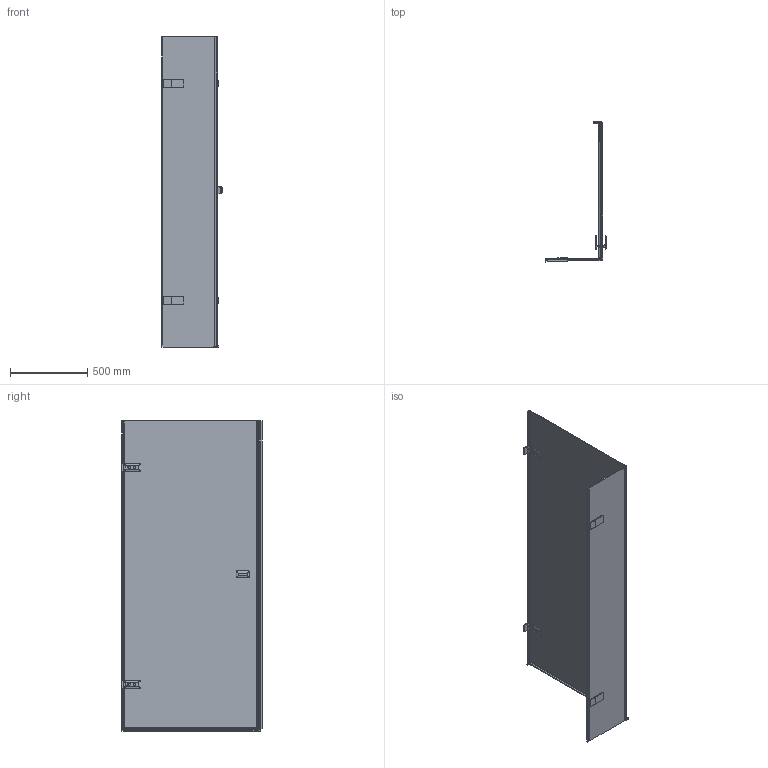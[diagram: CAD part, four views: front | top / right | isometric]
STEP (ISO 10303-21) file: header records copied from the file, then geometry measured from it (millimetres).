
FILE_DESCRIPTION(/* description */ (''),/* implementation_level */ '2;1');
FILE_NAME(/* name */ 'E:\Работа\Сергей\Душевые кабинки\! Работа\TREND SQUARE GK-862GC-2722\TREND SQUARE GK-862GC-2722 правая модель\TREND SQUARE GK-862GC-2722 ПРАВАЯ-3D.stp',/* time_stamp */ '2018-06-06T18:30:47+03:00',/* author */ ('PC'),/* organization */ (''),/* preprocessor_version */ 'ST-DEVELOPER v15.2',/* originating_system */ 'Autodesk Inventor 2014',/* authorisation */ '');
FILE_SCHEMA (('AUTOMOTIVE_DESIGN { 1 0 10303 214 3 1 1 }'));
Length unit declared in the file: millimetre
Products named in the file (1): TREND SQUARE GK-862GC-2722 \X2\041F0420041004120410042F
\X0\-3D
Bounding box: 389.96 x 905.6 x 2001 mm (x, y, z)
Volume: 15678470.5 mm3; surface area: 5467397.4 mm2
Topology: 3 solids, 3 shells, 880 faces, 2311 edges, 1409 vertices
Faces by surface type: plane 550, cylinder 239, bspline 52, torus 30, sphere 9
Full cylindrical faces by diameter (mm): 12 x2
Entity records: 29384 total; most frequent: CARTESIAN_POINT 6878, ORIENTED_EDGE 4552, DIRECTION 4404, EDGE_CURVE 2276, LINE 1616, VECTOR 1616, VERTEX_POINT 1409, AXIS2_PLACEMENT_3D 1394
